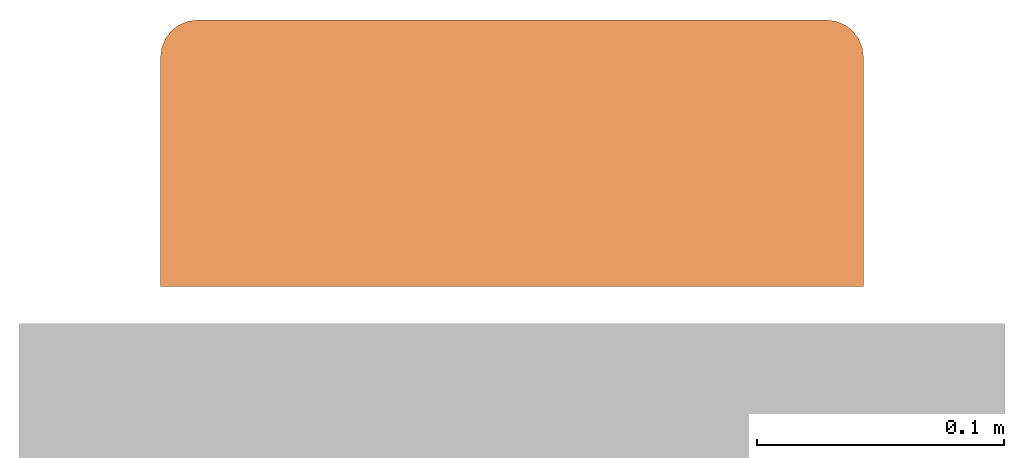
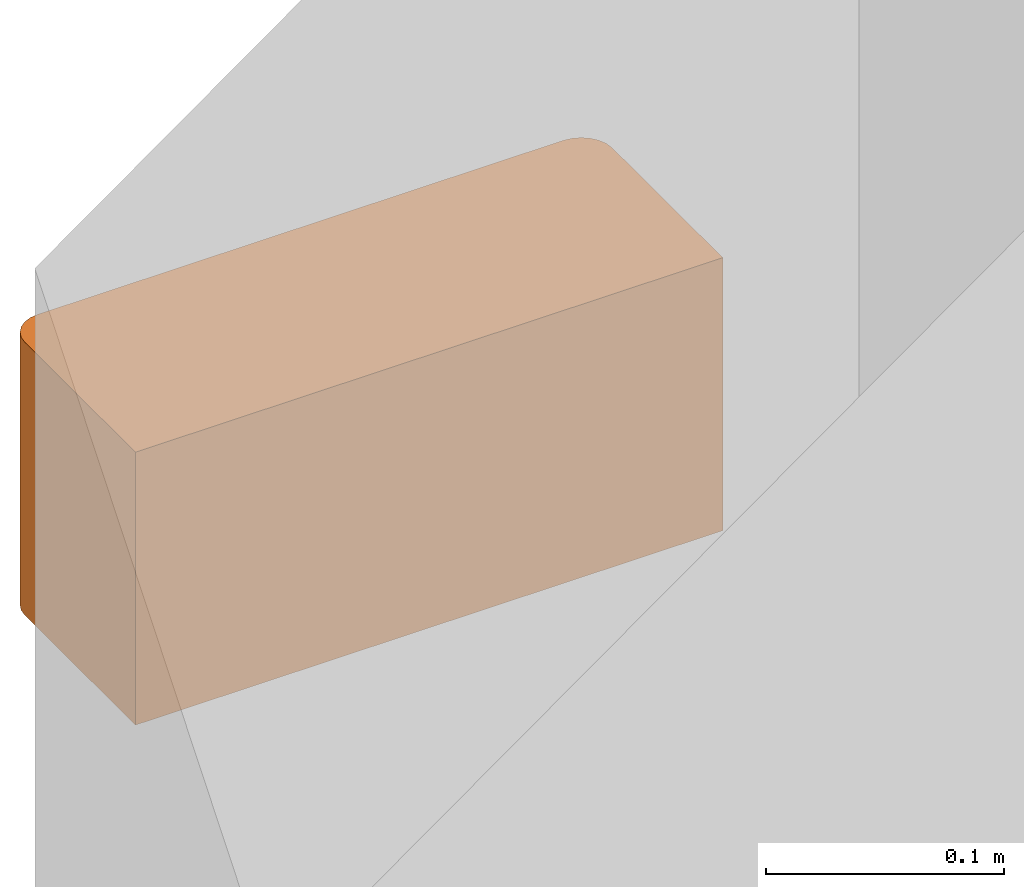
# One storey, part 2 of 2: 1 proxy.
"""IFC2X3 building model written with IfcOpenShell, lengths in millimetres."""

from ifc_helpers import new_model, entity, si_unit, converted_unit, derived_unit, direction, frame, origin, place, context, subcontext, project, spatial, faceted_brep, source, transform, mapped, element, save


model = new_model("IFC2X3")

# Units and contexts
model_context = context("Model", 3, precision=0.01, world=origin(), true_north=direction((6.12303176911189e-17, 1.0)))
context_of_model = context(None, 3, precision=0.01, world=origin(), true_north=direction((6.12303176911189e-17, 1.0)))
body_context = subcontext(model_context, "Body", "Model", "MODEL_VIEW")
ifc_project = project(units=[si_unit("LENGTHUNIT", "METRE", prefix="MILLI"), si_unit("AREAUNIT", "SQUARE_METRE"), si_unit("VOLUMEUNIT", "CUBIC_METRE"), converted_unit("PLANEANGLEUNIT", "DEGREE", entity("IfcRatioMeasure", 0.0174532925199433), si_unit("PLANEANGLEUNIT", "RADIAN"), dimensions=[0, 0, 0, 0, 0, 0, 0]), si_unit("MASSUNIT", "GRAM", prefix="KILO"), si_unit("TIMEUNIT", "SECOND"), si_unit("FREQUENCYUNIT", "HERTZ"), si_unit("THERMODYNAMICTEMPERATUREUNIT", "DEGREE_CELSIUS"), derived_unit("THERMALTRANSMITTANCEUNIT", [(si_unit("MASSUNIT", "GRAM", prefix="KILO"), 1), (si_unit("THERMODYNAMICTEMPERATUREUNIT", "KELVIN"), -1), (si_unit("TIMEUNIT", "SECOND"), -3)]), derived_unit("VOLUMETRICFLOWRATEUNIT", [(si_unit("LENGTHUNIT", "METRE"), 3), (si_unit("TIMEUNIT", "SECOND"), -1)]), si_unit("ELECTRICCURRENTUNIT", "AMPERE"), si_unit("ELECTRICVOLTAGEUNIT", "VOLT"), si_unit("POWERUNIT", "WATT"), si_unit("FORCEUNIT", "NEWTON", prefix="KILO"), si_unit("ILLUMINANCEUNIT", "LUX"), si_unit("LUMINOUSFLUXUNIT", "LUMEN"), si_unit("LUMINOUSINTENSITYUNIT", "CANDELA"), si_unit("PRESSUREUNIT", "PASCAL")], contexts=[model_context, context_of_model])

# Site, building, storey
site_placement = place(None, origin())
site = spatial("IfcSite", under=ifc_project, at=site_placement, Name="Default", CompositionType="ELEMENT")
building_placement = place(site_placement, origin())
building = spatial("IfcBuilding", under=site, at=building_placement, CompositionType="ELEMENT")
storey_placement = place(building_placement, origin())
storey = spatial("IfcBuildingStorey", under=building, at=storey_placement, Name="Level 1", CompositionType="ELEMENT", Elevation=0.0)

# Proxy
shared_shape = source(origin(), body_context, "Body", "Brep", [
    faceted_brep([(72.7057248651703, 106.0, 63.0459609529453), (69.5991231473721, 106.0, 60.6621816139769), (65.9814088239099, 106.0, 59.1636752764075), (62.0991231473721, 106.0, 58.6525626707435), (58.2168374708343, 106.0, 59.1636752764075), (54.5991231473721, 106.0, 60.662181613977), (51.4925214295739, 106.0, 63.0459609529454), (49.1087420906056, 106.0, 66.1525626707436), (47.6102357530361, 106.0, 69.7702769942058), (47.0991231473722, 106.0, 73.6525626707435), (47.6102357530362, 106.0, 77.5348483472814), (49.1087420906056, 106.0, 81.1525626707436), (51.492521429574, 106.0, 84.2591643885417), (54.5991231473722, 106.0, 86.6429437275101), (58.2168374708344, 106.0, 88.1414500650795), (62.0991231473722, 106.0, 88.6525626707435), (65.98140882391, 106.0, 88.1414500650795), (69.5991231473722, 106.0, 86.6429437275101), (72.7057248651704, 106.0, 84.2591643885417), (75.0895042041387, 106.0, 81.1525626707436), (76.5880105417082, 106.0, 77.5348483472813), (77.0991231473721, 106.0, 73.6525626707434), (76.5880105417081, 106.0, 69.7702769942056), (75.0895042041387, 106.0, 66.1525626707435), (236.698023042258, 106.0, 63.0459609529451), (233.59142132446, 106.0, 60.6621816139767), (229.973707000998, 106.0, 59.1636752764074), (226.09142132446, 106.0, 58.6525626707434), (222.209135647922, 106.0, 59.1636752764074), (218.59142132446, 106.0, 60.6621816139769), (215.484819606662, 106.0, 63.0459609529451), (213.101040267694, 106.0, 66.1525626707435), (211.602533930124, 106.0, 69.7702769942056), (211.09142132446, 106.0, 73.6525626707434), (211.602533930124, 106.0, 77.5348483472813), (213.101040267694, 106.0, 81.1525626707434), (215.484819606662, 106.0, 84.2591643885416), (218.59142132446, 106.0, 86.64294372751), (222.209135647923, 106.0, 88.1414500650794), (226.09142132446, 106.0, 88.6525626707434), (229.973707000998, 106.0, 88.1414500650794), (233.59142132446, 106.0, 86.6429437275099), (236.698023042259, 106.0, 84.2591643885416), (239.081802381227, 106.0, 81.1525626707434), (240.580308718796, 106.0, 77.5348483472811), (241.09142132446, 106.0, 73.6525626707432), (240.580308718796, 106.0, 69.7702769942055), (239.081802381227, 106.0, 66.1525626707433), (16.5952722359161, 108.0, 140.0), (12.7129865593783, 107.488887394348, 140.0), (9.09527223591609, 105.990381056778, 140.0), (5.9886705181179, 103.60660171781, 140.0), (3.6048911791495, 100.500000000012, 140.0), (2.10638484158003, 96.8822856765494, 140.0), (1.595272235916, 93.0, 140.0), (1.595272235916, 0.0, 140.0), (286.595272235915, 0.0, 140.0), (286.595272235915, 93.0, 140.0), (286.084159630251, 96.8822856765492, 140.0), (284.585653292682, 100.500000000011, 140.0), (282.201873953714, 103.60660171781, 140.0), (279.095272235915, 105.990381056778, 140.0), (275.477557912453, 107.488887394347, 140.0), (271.595272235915, 108.0, 140.0), (286.595272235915, 93.0, 0.0), (286.595272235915, 0.0, 0.0), (1.595272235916, 0.0, 0.0), (1.595272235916, 93.0, 0.0), (2.10638484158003, 96.8822856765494, 0.0), (3.6048911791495, 100.500000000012, 0.0), (5.9886705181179, 103.60660171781, 0.0), (9.09527223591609, 105.990381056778, 0.0), (12.7129865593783, 107.488887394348, 0.0), (16.595272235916, 108.0, 0.0), (271.595272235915, 108.0, 0.0), (275.477557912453, 107.488887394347, 0.0), (279.095272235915, 105.990381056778, 0.0), (282.201873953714, 103.60660171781, 0.0), (284.585653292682, 100.500000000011, 0.0), (286.084159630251, 96.8822856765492, 0.0), (233.59142132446, 108.0, 86.64294372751), (229.973707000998, 108.0, 88.1414500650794), (236.698023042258, 108.0, 84.2591643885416), (226.09142132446, 108.0, 88.6525626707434), (222.209135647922, 108.0, 88.1414500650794), (218.59142132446, 108.0, 86.6429437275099), (69.5991231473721, 108.0, 86.6429437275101), (239.081802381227, 108.0, 81.1525626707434), (240.580308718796, 108.0, 77.5348483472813), (241.09142132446, 108.0, 73.6525626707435), (240.580308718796, 108.0, 69.7702769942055), (239.081802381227, 108.0, 66.1525626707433), (236.698023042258, 108.0, 63.0459609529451), (233.59142132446, 108.0, 60.6621816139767), (229.973707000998, 108.0, 59.1636752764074), (226.09142132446, 108.0, 58.6525626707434), (222.209135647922, 108.0, 59.1636752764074), (218.59142132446, 108.0, 60.6621816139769), (47.0991231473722, 108.0, 73.6525626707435), (69.5991231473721, 108.0, 60.6621816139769), (65.9814088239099, 108.0, 59.1636752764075), (62.0991231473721, 108.0, 58.6525626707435), (58.2168374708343, 108.0, 59.1636752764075), (54.5991231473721, 108.0, 60.662181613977), (51.4925214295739, 108.0, 63.0459609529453), (49.1087420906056, 108.0, 66.1525626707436), (47.6102357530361, 108.0, 69.7702769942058), (47.6102357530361, 108.0, 77.5348483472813), (215.484819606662, 108.0, 63.0459609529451), (72.7057248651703, 108.0, 63.0459609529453), (213.101040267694, 108.0, 66.1525626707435), (75.0895042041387, 108.0, 66.1525626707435), (211.602533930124, 108.0, 69.7702769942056), (76.5880105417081, 108.0, 69.7702769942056), (211.09142132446, 108.0, 73.6525626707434), (77.0991231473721, 108.0, 73.6525626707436), (76.5880105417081, 108.0, 77.5348483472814), (211.602533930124, 108.0, 77.5348483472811), (75.0895042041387, 108.0, 81.1525626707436), (213.101040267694, 108.0, 81.1525626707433), (72.7057248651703, 108.0, 84.2591643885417), (215.484819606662, 108.0, 84.2591643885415), (65.9814088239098, 108.0, 88.1414500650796), (62.099123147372, 108.0, 88.6525626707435), (58.2168374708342, 108.0, 88.1414500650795), (54.599123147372, 108.0, 86.64294372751), (51.4925214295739, 108.0, 84.2591643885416), (49.1087420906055, 108.0, 81.1525626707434)], [[[0, 1, 2, 3, 4, 5, 6, 7, 8, 9, 10, 11, 12, 13, 14, 15, 16, 17, 18, 19, 20, 21, 22, 23]], [[24, 25, 26, 27, 28, 29, 30, 31, 32, 33, 34, 35, 36, 37, 38, 39, 40, 41, 42, 43, 44, 45, 46, 47]], [[48, 49, 50, 51, 52, 53, 54, 55, 56, 57, 58, 59, 60, 61, 62, 63]], [[64, 65, 66, 67, 68, 69, 70, 71, 72, 73, 74, 75, 76, 77, 78, 79]], [[57, 56, 65, 64]], [[58, 79, 78, 59]], [[59, 78, 77, 60]], [[64, 79, 58, 57]], [[61, 76, 75, 62]], [[62, 75, 74, 63]], [[60, 77, 76, 61]], [[63, 80, 81]], [[80, 63, 82]], [[63, 81, 83]], [[83, 84, 63]], [[84, 85, 63]], [[86, 63, 85]], [[87, 82, 63]], [[88, 87, 63]], [[89, 88, 63]], [[63, 74, 89]], [[48, 63, 86]], [[90, 89, 74]], [[91, 90, 74]], [[74, 92, 91]], [[92, 74, 93]], [[93, 74, 94]], [[95, 94, 74]], [[96, 95, 74]], [[97, 96, 74]], [[73, 97, 74]], [[48, 98, 73]], [[97, 73, 99]], [[100, 99, 73]], [[101, 100, 73]], [[73, 102, 101]], [[102, 73, 103]], [[104, 103, 73]], [[104, 73, 105]], [[106, 105, 73]], [[106, 73, 98]], [[107, 98, 48]], [[97, 99, 108]], [[109, 108, 99]], [[108, 109, 110]], [[111, 110, 109]], [[112, 110, 111]], [[111, 113, 112]], [[114, 112, 113]], [[113, 115, 114]], [[114, 115, 116]], [[116, 117, 114]], [[116, 118, 117]], [[119, 117, 118]], [[118, 120, 119]], [[121, 119, 120]], [[121, 120, 86]], [[86, 85, 121]], [[86, 122, 48]], [[122, 123, 48]], [[124, 48, 123]], [[48, 124, 125]], [[48, 125, 126]], [[126, 127, 48]], [[127, 107, 48]], [[49, 72, 71, 50]], [[50, 71, 70, 51]], [[73, 72, 49, 48]], [[52, 69, 68, 53]], [[53, 68, 67, 54]], [[51, 70, 69, 52]], [[55, 54, 67, 66]], [[56, 55, 66, 65]], [[112, 114, 33, 32]], [[112, 32, 31, 110]], [[97, 108, 30, 29]], [[30, 108, 110, 31]], [[96, 97, 29, 28]], [[96, 28, 27, 95]], [[95, 27, 26, 94]], [[94, 26, 25, 93]], [[91, 92, 24, 47]], [[24, 92, 93, 25]], [[90, 91, 47, 46]], [[90, 46, 45, 89]], [[88, 89, 45, 44]], [[88, 44, 43, 87]], [[80, 82, 42, 41]], [[42, 82, 87, 43]], [[81, 80, 41, 40]], [[81, 40, 39, 83]], [[83, 39, 38, 84]], [[84, 38, 37, 85]], [[119, 121, 36, 35]], [[36, 121, 85, 37]], [[117, 119, 35, 34]], [[117, 34, 33, 114]], [[106, 98, 9, 8]], [[106, 8, 7, 105]], [[103, 104, 6, 5]], [[7, 6, 104, 105]], [[102, 103, 5, 4]], [[4, 3, 101, 102]], [[99, 100, 2, 1]], [[99, 1, 0, 109]], [[113, 111, 23, 22]], [[0, 23, 111, 109]], [[115, 113, 22, 21]], [[100, 101, 3, 2]], [[116, 115, 21, 20]], [[116, 20, 19, 118]], [[17, 16, 122, 86]], [[18, 17, 86, 120]], [[120, 118, 19, 18]], [[16, 15, 123, 122]], [[13, 12, 126, 125]], [[14, 13, 125, 124]], [[10, 9, 98, 107]], [[11, 10, 107, 127]], [[12, 11, 127, 126]], [[124, 123, 15, 14]]]),
])
proxy_placement = place(storey_placement, frame((142.768340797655, -452.252426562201, 1000.0)))
element("IfcBuildingElementProxy", 1, at=proxy_placement, inside=storey, Name="14709502000b:d_line_Washroom_WallMountedSanitaryPanels_SanitaryBagDispenser", ObjectType="d_line_Washroom_WallMountedSanitaryPanels_SanitaryBagDispenser", CompositionType="ELEMENT", context=body_context, shape_type="MappedRepresentation", body=[
    mapped(shared_shape, transform((0.0, 0.0, 0.0), scale=1.0)),
])

save(model, "model.ifc")
